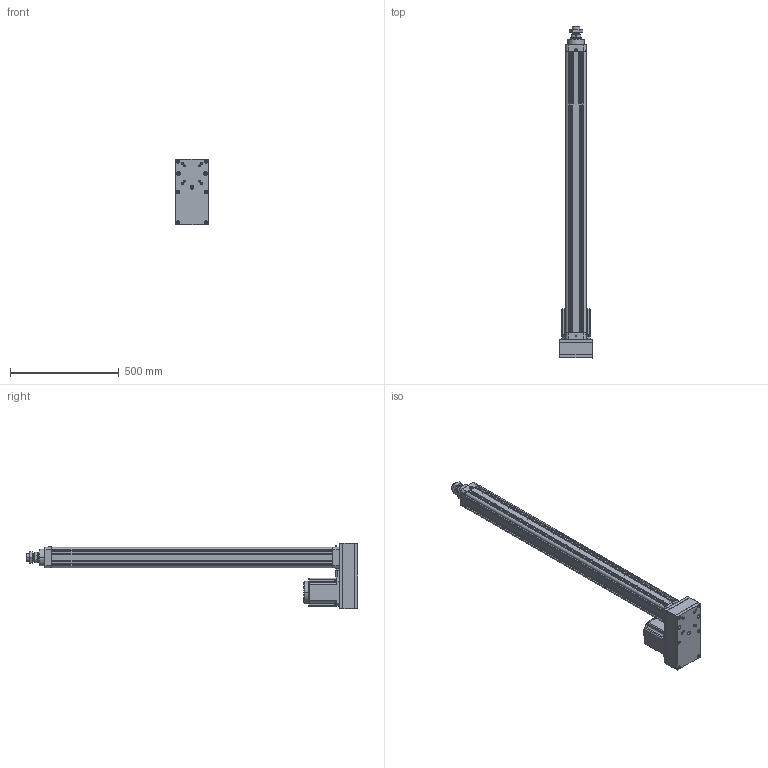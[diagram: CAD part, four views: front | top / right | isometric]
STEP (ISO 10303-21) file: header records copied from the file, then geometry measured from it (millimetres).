
FILE_DESCRIPTION((''),'2;1');
FILE_NAME('ASM0003_ASM','2020-04-01T',('ASUS20200'),(''),'CREO PARAMETRIC BY PTC INC, 2014190','CREO PARAMETRIC BY PTC INC, 2014190','');
FILE_SCHEMA(('CONFIG_CONTROL_DESIGN'));
Length unit declared in the file: millimetre
Products named in the file (25): HE80-D-P-001-X1; HE80-D-P-002-X1; HE80-D-P-003-X1; 30304J; YZ-M6X1; SLM-01; JDB506030; HE80-100-D-P-X1_ASM; HE80-P-010-X1-130N; 130ST-M10010; M10X25; HE80-P-009-X1-130N; HE80-P-013-X1-130N; TD-8; M8X35; M8X75; LM-M8-7-5; M10X1-25-40; LM-M10-30; LM-M10; HE80-D-P-005-X1; HE80-D-P-004-X1; HE80-D-P-008-X1; LGLM-M10-25; ASM0003_ASM
Assembly tree (45 placements, depth 3):
  ASM0003_ASM
    HE80-100-D-P-X1_ASM
      HE80-D-P-001-X1
      HE80-D-P-002-X1
      HE80-D-P-003-X1
      30304J  x2
      YZ-M6X1
      SLM-01
      JDB506030
    HE80-P-010-X1-130N
    130ST-M10010
    M10X25  x4
    HE80-P-009-X1-130N
    HE80-P-013-X1-130N
    TD-8  x4
    M8X35  x4
    M8X75  x6
    LM-M8-7-5  x4
    M10X1-25-40
    LM-M10-30
    LM-M10
    HE80-D-P-005-X1
    HE80-D-P-004-X1
    HE80-D-P-008-X1
    LGLM-M10-25  x4
Bounding box: 150 x 1524 x 300 mm (x, y, z)
Volume: 7842746.5 mm3; surface area: 2118602.6 mm2
Topology: 44 solids, 83 shells, 2039 faces, 4721 edges, 2872 vertices
Faces by surface type: plane 711, cone 632, cylinder 564, torus 102, sphere 26, bspline 4
Entity records: 45932 total; most frequent: CARTESIAN_POINT 9034, DIRECTION 8184, ORIENTED_EDGE 7038, EDGE_CURVE 3589, AXIS2_PLACEMENT_3D 3179, VERTEX_POINT 2185, VECTOR 1826, LINE 1826
